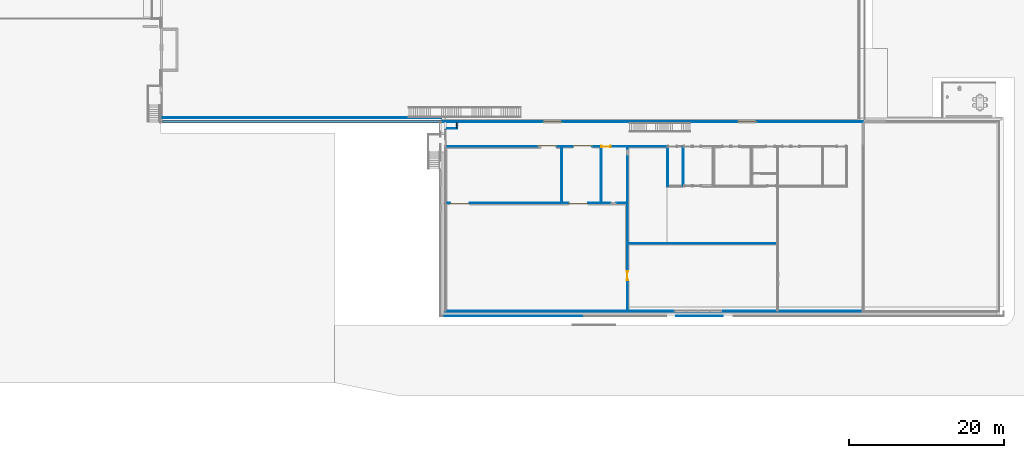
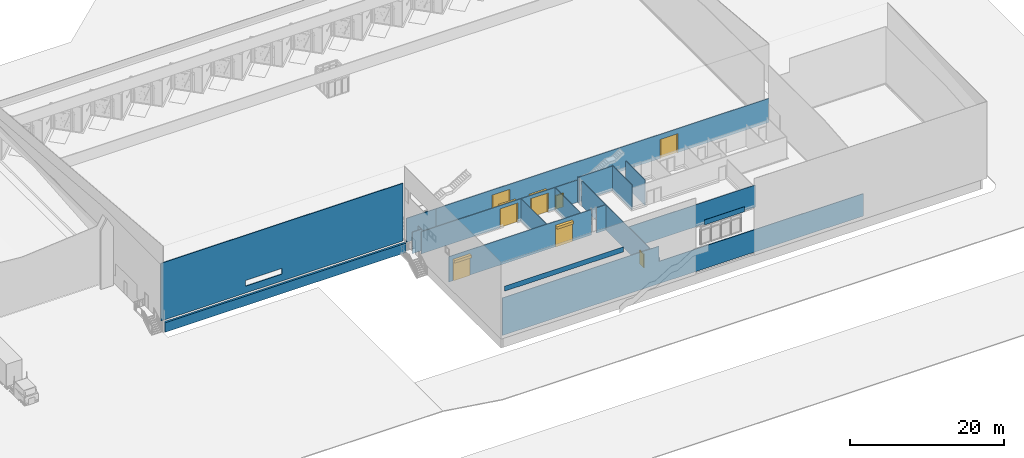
# One storey, part 23 of 64: 17 walls, 8 doors, 14 openings.
"""IFC2X3 building model written with IfcOpenShell, lengths in millimetres."""

from ifc_helpers import new_model, entity, si_unit, converted_unit, derived_unit, direction, frame, frame_2d, origin, origin_2d_with_axis, place, context, subcontext, project, spatial, polyline, rectangle, outline, extrude, clip, halfspace, source, transform, mapped, material, material_list, layer, layer_set, layer_usage, type_object, type_shapes, element, fill, save


model = new_model("IFC2X3")

# Units and contexts
model_context = context("Model", 3, precision=0.01, world=origin(), true_north=direction((4.05803320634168e-15, -1.0)))
body_context = subcontext(model_context, "Body", "Model", "MODEL_VIEW")
ifc_project = project(units=[si_unit("LENGTHUNIT", "METRE", prefix="MILLI"), si_unit("AREAUNIT", "SQUARE_METRE"), si_unit("VOLUMEUNIT", "CUBIC_METRE"), converted_unit("PLANEANGLEUNIT", "DEGREE", entity("IfcRatioMeasure", 0.0174532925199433), si_unit("PLANEANGLEUNIT", "RADIAN"), dimensions=[0, 0, 0, 0, 0, 0, 0]), si_unit("MASSUNIT", "GRAM", prefix="KILO"), derived_unit("MASSDENSITYUNIT", [(si_unit("MASSUNIT", "GRAM", prefix="KILO"), 1), (si_unit("LENGTHUNIT", "METRE"), -3)]), si_unit("TIMEUNIT", "SECOND"), si_unit("FREQUENCYUNIT", "HERTZ"), si_unit("THERMODYNAMICTEMPERATUREUNIT", "DEGREE_CELSIUS"), derived_unit("THERMALTRANSMITTANCEUNIT", [(si_unit("MASSUNIT", "GRAM", prefix="KILO"), 1), (si_unit("THERMODYNAMICTEMPERATUREUNIT", "KELVIN"), -1), (si_unit("TIMEUNIT", "SECOND"), -3)]), derived_unit("VOLUMETRICFLOWRATEUNIT", [(si_unit("LENGTHUNIT", "METRE"), 3), (si_unit("TIMEUNIT", "SECOND"), -1)]), si_unit("ELECTRICCURRENTUNIT", "AMPERE"), si_unit("ELECTRICVOLTAGEUNIT", "VOLT"), si_unit("POWERUNIT", "WATT"), si_unit("FORCEUNIT", "NEWTON", prefix="KILO"), si_unit("ILLUMINANCEUNIT", "LUX"), si_unit("LUMINOUSFLUXUNIT", "LUMEN"), si_unit("LUMINOUSINTENSITYUNIT", "CANDELA"), derived_unit("USERDEFINED", [(si_unit("MASSUNIT", "GRAM", prefix="KILO"), -1), (si_unit("LENGTHUNIT", "METRE"), -2), (si_unit("TIMEUNIT", "SECOND"), 3), (si_unit("LUMINOUSFLUXUNIT", "LUMEN"), 1)]), derived_unit("LINEARVELOCITYUNIT", [(si_unit("LENGTHUNIT", "METRE"), 1), (si_unit("TIMEUNIT", "SECOND"), -1)]), si_unit("PRESSUREUNIT", "PASCAL"), derived_unit("USERDEFINED", [(si_unit("LENGTHUNIT", "METRE"), -2), (si_unit("MASSUNIT", "GRAM", prefix="KILO"), 1), (si_unit("TIMEUNIT", "SECOND"), -2)])], contexts=[model_context])

# Site, building, storey
site_placement = place(None, frame((927466.849349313, 583801.882853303, 0.0), z_axis=(0.0, 0.0, 1.0), x_axis=(-1.0, 0.0, 0.0)))
site = spatial("IfcSite", under=ifc_project, at=site_placement, Name="Surface", CompositionType="ELEMENT")
building_placement = place(site_placement, origin())
building = spatial("IfcBuilding", under=site, at=building_placement, CompositionType="ELEMENT")
storey_placement = place(building_placement, frame((0.0, 0.0, 44170.0)))
storey = spatial("IfcBuildingStorey", under=building, at=storey_placement, Name="Ground FFL", CompositionType="ELEMENT", Elevation=44170.0)

# Walls
ifc_material_1 = material(Name="Isopenal")
ifc_layer_1 = layer(ifc_material_1, 100.0)
ifc_layer_set_1 = layer_set([ifc_layer_1], Name="Basic Wall:Isopanel")
ifc_layer_usage_1 = layer_usage(ifc_layer_set_1, "AXIS2", "NEGATIVE", 50.0)
wall_type_1 = type_object("IfcWallType", Name="Basic Wall:Isopanel", PredefinedType="STANDARD", material=ifc_layer_set_1)
wall_1_placement = place(storey_placement, frame((-96397.9372768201, 15207.4703266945, 0.0), z_axis=(0.0, 0.0, 1.0), x_axis=(0.0, 1.0, 0.0)))
element("IfcWallStandardCase", 1, at=wall_1_placement, inside=storey, type_object=wall_type_1, material=ifc_layer_usage_1, Name="Basic Wall:Isopanel", ObjectType="Basic Wall:Isopanel", context=body_context, shape_type="SweptSolid", body=[
    extrude(rectangle(XDim=7200.00000000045, YDim=100.000000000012, at=frame_2d((3600.00000000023, 2.98427949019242e-12), x_axis=(-1.0, 0.0))), origin(), (0.0, 0.0, 1.0), 3499.99999999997),
])
ifc_layer_usage_2 = layer_usage(ifc_layer_set_1, "AXIS2", "NEGATIVE", 50.0)
wall_2_placement = place(storey_placement, frame((-101497.937276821, 15207.4703266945, 0.0), z_axis=(0.0, 0.0, 1.0), x_axis=(0.0, 1.0, 0.0)))
element("IfcWallStandardCase", 2, at=wall_2_placement, inside=storey, type_object=wall_type_1, material=ifc_layer_usage_2, Name="Basic Wall:Isopanel", ObjectType="Basic Wall:Isopanel", context=body_context, shape_type="SweptSolid", body=[
    extrude(rectangle(XDim=7200.00000000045, YDim=100.000000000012, at=frame_2d((3600.00000000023, 3.04112290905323e-12), x_axis=(-1.0, 0.0))), origin(), (0.0, 0.0, 1.0), 3500.0),
])

# Wall, openings, doors
ifc_layer_usage_3 = layer_usage(ifc_layer_set_1, "AXIS2", "NEGATIVE", 50.0)
wall_3_placement = place(storey_placement, frame((-81347.9372768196, 22457.4703266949, 0.0), z_axis=(0.0, 0.0, 1.0), x_axis=(-1.0, 0.0, 0.0)))
wall_3 = element("IfcWallStandardCase", 3, at=wall_3_placement, inside=storey, type_object=wall_type_1, material=ifc_layer_usage_3, Name="Basic Wall:Isopanel", ObjectType="Basic Wall:Isopanel", context=body_context, shape_type="SweptSolid", body=[
    extrude(rectangle(XDim=23500.0000000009, YDim=100.000000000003, at=frame_2d((11750.0000000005, 6.85673740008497e-13), x_axis=(-1.0, 0.0))), origin(), (0.0, 0.0, 1.0), 3999.99999999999),
])
opening_1_placement = place(wall_3_placement, origin())
element("IfcOpeningElement", 4, at=opening_1_placement, cuts=wall_3, Name="Basic Wall:Isopanel", ObjectType="Opening", context=body_context, shape_type="SweptSolid", body=[
    extrude(rectangle(XDim=4000.0, YDim=700.000000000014, at=frame_2d((0.0, -4.32009983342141e-12), x_axis=(0.0, 1.0))), frame((21730.0, -202.399999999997, 2000.0), z_axis=(0.0, 1.0, 0.0), x_axis=(-1.0, 0.0, 0.0)), (0.0, 0.0, 1.0), 404.799999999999),
])
opening_2_placement = place(wall_3_placement, frame((660.0, -50.0, 0.0)))
opening_2 = element("IfcOpeningElement", 5, at=opening_2_placement, cuts=wall_3, Name="Rollershutter:25000(w) x 3000(h):1", ObjectType="Opening", context=body_context, shape_type="SweptSolid", body=[
    extrude(rectangle(XDim=3000.0, YDim=2500.0, at=frame_2d((1500.0, 1250.0), x_axis=(1.0, 0.0))), frame((0.0, 0.0, 0.0), z_axis=(0.0, 1.0, 0.0), x_axis=(0.0, 0.0, 1.0)), (0.0, 0.0, 1.0), 100.0),
])
opening_3_placement = place(wall_3_placement, frame((15960.0, -50.0, 0.0)))
opening_3 = element("IfcOpeningElement", 6, at=opening_3_placement, cuts=wall_3, Name="Rollershutter:25000(w) x 3000(h):1", ObjectType="Opening", context=body_context, shape_type="SweptSolid", body=[
    extrude(rectangle(XDim=3000.0, YDim=2500.0, at=frame_2d((1500.0, 1250.0), x_axis=(1.0, 0.0))), frame((0.0, 0.0, 0.0), z_axis=(0.0, 1.0, 0.0), x_axis=(0.0, 0.0, 1.0)), (0.0, 0.0, 1.0), 100.0),
])
ifc_material_2 = material(Name="Metal - Paint Finish - Ivory, Matte")
ifc_material_3 = material(Name="Metal - Galvanised")
ifc_material_list_1 = material_list([ifc_material_2, ifc_material_3])
ifc_material_list_2 = material_list([ifc_material_2, ifc_material_3])
door_style_1 = type_object("IfcDoorStyle", Name="25000(w) x 3000(h)", ConstructionType="NOTDEFINED", OperationType="NOTDEFINED", ParameterTakesPrecedence=False, Sizeable=False, material=ifc_material_list_2)
shared_shape_1 = source(origin(), body_context, "Body", "SweptSolid", [
    extrude(outline(polyline([(-50.6000000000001, -73.3333333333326), (-20.5999999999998, -73.3333333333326), (-20.5999999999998, 21.6666666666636), (71.1999999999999, 21.6666666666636), (71.1999999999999, 51.6666666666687), (-50.6000000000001, 51.6666666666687), (-50.6000000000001, -73.3333333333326)])), frame((-21.6666666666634, 79.3999999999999, 0.0), z_axis=(0.0, 0.0, 1.0), x_axis=(0.0, -1.0, 0.0)), (0.0, 0.0, 1.0), 3000.0),
    extrude(rectangle(XDim=2500.0, YDim=51.0, at=frame_2d((0.0, -3.5527136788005e-15), x_axis=(1.0, 0.0))), frame((1250.0, -25.5, 0.0), z_axis=(0.0, 0.0, 1.0), x_axis=(-1.0, 0.0, 0.0)), (0.0, 0.0, 1.0), 3000.0),
    extrude(outline(polyline([(-73.3333333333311, -50.5999999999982), (51.6666666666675, -50.5999999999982), (51.6666666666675, 71.1999999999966), (21.6666666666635, 71.1999999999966), (21.6666666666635, -20.5999999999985), (-73.3333333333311, -20.5999999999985), (-73.3333333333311, -50.5999999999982)])), frame((2521.66666666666, 79.3999999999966, 0.0), z_axis=(0.0, 0.0, 1.0), x_axis=(-1.0, 0.0, 0.0)), (0.0, 0.0, 1.0), 3000.0),
    extrude(rectangle(XDim=2500.0, YDim=400.0, at=frame_2d((2.27373675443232e-13, 0.0), x_axis=(1.0, 0.0))), frame((1250.0, -200.0, 3000.0)), (0.0, 0.0, 1.0), 400.0),
])
type_shapes(door_style_1, [shared_shape_1])
door_1_placement = place(opening_2_placement, origin())
door_1 = element("IfcDoor", 7, at=door_1_placement, inside=storey, type_object=door_style_1, material=ifc_material_list_1, Name="Rollershutter:25000(w) x 3000(h)", ObjectType="25000(w) x 3000(h)", OverallHeight=3000.0, OverallWidth=2500.0, context=body_context, shape_type="MappedRepresentation", body=[
    mapped(shared_shape_1, transform((0.0, 0.0, 0.0), scale=1.0)),
])
fill(opening_2, door_1)
ifc_material_list_3 = material_list([ifc_material_2, ifc_material_3])
door_2_placement = place(opening_3_placement, origin())
door_2 = element("IfcDoor", 8, at=door_2_placement, inside=storey, type_object=door_style_1, material=ifc_material_list_3, Name="Rollershutter:25000(w) x 3000(h)", ObjectType="25000(w) x 3000(h)", OverallHeight=3000.0, OverallWidth=2500.0, context=body_context, shape_type="MappedRepresentation", body=[
    mapped(shared_shape_1, transform((0.0, 0.0, 0.0), scale=1.0)),
])
fill(opening_3, door_2)

# Wall, openings, door
ifc_layer_usage_4 = layer_usage(ifc_layer_set_1, "AXIS2", "POSITIVE", -50.0)
wall_4_placement = place(storey_placement, frame((-104897.937276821, 15107.4703266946, 0.0), z_axis=(0.0, 0.0, 1.0), x_axis=(0.0, 1.0, 0.0)))
wall_4 = element("IfcWallStandardCase", 9, at=wall_4_placement, inside=storey, type_object=wall_type_1, material=ifc_layer_usage_4, Name="Basic Wall:Isopanel", ObjectType="Basic Wall:Isopanel", context=body_context, shape_type="SweptSolid", body=[
    extrude(rectangle(XDim=21248.4995753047, YDim=100.000000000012, at=frame_2d((10624.2497876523, -6.96331881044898e-13), x_axis=(-1.0, 0.0))), origin(), (0.0, 0.0, 1.0), 3999.99999999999),
])
opening_4_placement = place(wall_4_placement, origin())
element("IfcOpeningElement", 10, at=opening_4_placement, cuts=wall_4, Name="Basic Wall:Isopanel", ObjectType="Opening", context=body_context, shape_type="SweptSolid", body=[
    extrude(rectangle(XDim=4000.0, YDim=700.000000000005, at=frame_2d((-4.32009983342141e-12, 0.0), x_axis=(1.0, 0.0))), frame((810.0, -202.399999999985, 2000.0), z_axis=(0.0, 1.0, 0.0), x_axis=(0.0, 0.0, 1.0)), (0.0, 0.0, 1.0), 404.799999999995),
])
opening_5_placement = place(wall_4_placement, frame((17243.4448535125, 50.0, 0.0)))
opening_5 = element("IfcOpeningElement", 11, at=opening_5_placement, cuts=wall_4, Name="M_Single-Flush:1050 x 2134mm:1", ObjectType="Opening", context=body_context, shape_type="SweptSolid", body=[
    extrude(rectangle(XDim=1050.0, YDim=2134.0, at=frame_2d((1067.0, 525.0), x_axis=(0.0, 1.0))), frame((0.0, 0.0, 0.0), z_axis=(0.0, -1.0, 0.0), x_axis=(0.0, 0.0, 1.0)), (0.0, 0.0, 1.0), 100.0),
])
ifc_material_4 = material(Name="Door - Frame")
ifc_material_5 = material(Name="Door - Panel")
ifc_material_list_4 = material_list([ifc_material_4, ifc_material_5])
ifc_material_list_5 = material_list([ifc_material_4, ifc_material_5])
door_style_2 = type_object("IfcDoorStyle", Name="1050 x 2134mm", ConstructionType="NOTDEFINED", OperationType="SINGLE_SWING_RIGHT", ParameterTakesPrecedence=False, Sizeable=False, material=ifc_material_list_5)
shared_shape_2 = source(origin(), body_context, "Body", "SweptSolid", [
    extrude(outline(polyline([(-601.0, -1124.0), (601.0, -1124.0), (601.0, 1086.0), (525.0, 1086.0), (525.0, -1048.0), (-525.0, -1048.0), (-525.0, 1086.0), (-601.0, 1086.0), (-601.0, -1124.0)])), frame((525.0, 100.0, 1086.0), z_axis=(0.0, 1.0, 0.0), x_axis=(1.0, 0.0, 0.0)), (0.0, 0.0, 1.0), 24.9999999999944),
    extrude(outline(polyline([(-1124.0, -601.0), (1086.0, -601.0), (1086.0, -525.0), (-1048.0, -525.0), (-1048.0, 525.0), (1086.0, 525.0), (1086.0, 601.0), (-1124.0, 601.0), (-1124.0, -601.0)])), frame((525.0, -25.0, 1086.0), z_axis=(0.0, 1.0, 0.0), x_axis=(0.0, 0.0, -1.0)), (0.0, 0.0, 1.0), 25.0000000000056),
    extrude(rectangle(XDim=51.0, YDim=1050.0, at=origin_2d_with_axis()), frame((525.0, 74.500000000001, 0.0), z_axis=(0.0, 0.0, 1.0), x_axis=(0.0, 1.0, 0.0)), (0.0, 0.0, 1.0), 2134.0),
])
type_shapes(door_style_2, [shared_shape_2])
door_3_placement = place(opening_5_placement, frame((0.0, 0.0, 0.0), z_axis=(0.0, 0.0, 1.0), x_axis=(-1.0, 0.0, 0.0)))
door_3 = element("IfcDoor", 12, at=door_3_placement, inside=storey, type_object=door_style_2, material=ifc_material_list_4, Name="M_Single-Flush:1050 x 2134mm", ObjectType="1050 x 2134mm", OverallHeight=2134.0, OverallWidth=1050.0, context=body_context, shape_type="MappedRepresentation", body=[
    mapped(shared_shape_2, transform((0.0, 0.0, 0.0), scale=1.0)),
])
fill(opening_5, door_3)

# Wall, openings, doors
ifc_layer_usage_5 = layer_usage(ifc_layer_set_1, "AXIS2", "POSITIVE", -50.0)
wall_5_placement = place(storey_placement, frame((-135347.93727682, 11958.2777512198, 0.0)))
wall_5 = element("IfcWallStandardCase", 13, at=wall_5_placement, inside=storey, type_object=wall_type_1, material=ifc_layer_usage_5, Name="Basic Wall:Isopanel", ObjectType="Basic Wall:Isopanel", context=body_context, shape_type="SweptSolid", body=[
    extrude(rectangle(XDim=49822.0595884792, YDim=99.9999999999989, at=frame_2d((24911.0297942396, 1.77635683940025e-13), x_axis=(-1.0, 0.0))), origin(), (0.0, 0.0, 1.0), 3800.0),
])
opening_6_placement = place(wall_5_placement, origin())
element("IfcOpeningElement", 14, at=opening_6_placement, cuts=wall_5, Name="Basic Wall:Isopanel", ObjectType="Opening", context=body_context, shape_type="SweptSolid", body=[
    extrude(rectangle(XDim=3000.0, YDim=99.9999999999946, at=frame_2d((8.66506866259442e-12, 4.32009983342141e-12), x_axis=(0.0, 1.0))), frame((50.0, 50.0, 1500.0), z_axis=(0.0, 1.0, 0.0), x_axis=(1.0, 0.0, 0.0)), (0.0, 0.0, 1.0), 3000.0),
])
opening_7_placement = place(wall_5_placement, frame((13752.0595884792, -50.0, 0.0)))
opening_7 = element("IfcOpeningElement", 15, at=opening_7_placement, cuts=wall_5, Name="Rollershutter:25000(w) x 3000(h):1", ObjectType="Opening", context=body_context, shape_type="SweptSolid", body=[
    extrude(rectangle(XDim=3000.0, YDim=2500.0, at=frame_2d((1500.0, 1250.0), x_axis=(1.0, 0.0))), frame((0.0, 0.0, 0.0), z_axis=(0.0, 1.0, 0.0), x_axis=(0.0, 0.0, 1.0)), (0.0, 0.0, 1.0), 100.0),
])
opening_8_placement = place(wall_5_placement, frame((38872.0595884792, -50.0, 0.0)))
opening_8 = element("IfcOpeningElement", 16, at=opening_8_placement, cuts=wall_5, Name="Rollershutter:25000(w) x 3000(h):1", ObjectType="Opening", context=body_context, shape_type="SweptSolid", body=[
    extrude(rectangle(XDim=3000.0, YDim=2500.0, at=frame_2d((1500.0, 1250.0), x_axis=(1.0, 0.0))), frame((0.0, 0.0, 0.0), z_axis=(0.0, 1.0, 0.0), x_axis=(0.0, 0.0, 1.0)), (0.0, 0.0, 1.0), 100.0),
])
ifc_material_list_6 = material_list([ifc_material_2, ifc_material_3])
ifc_material_list_7 = material_list([ifc_material_2, ifc_material_3])
door_style_3 = type_object("IfcDoorStyle", Name="25000(w) x 3000(h)", ConstructionType="NOTDEFINED", OperationType="NOTDEFINED", ParameterTakesPrecedence=False, Sizeable=False, material=ifc_material_list_7)
shared_shape_3 = source(origin(), body_context, "Body", "SweptSolid", [
    extrude(outline(polyline([(-73.3333333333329, -50.6000000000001), (51.6666666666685, -50.6000000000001), (51.6666666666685, 71.1999999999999), (21.6666666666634, 71.1999999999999), (21.6666666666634, -20.5999999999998), (-73.3333333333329, -20.5999999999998), (-73.3333333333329, -50.6000000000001)])), frame((3321.66666666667, 79.3999999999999, 0.0), z_axis=(0.0, 0.0, 1.0), x_axis=(-1.0, 0.0, 0.0)), (0.0, 0.0, 1.0), 3000.0),
    extrude(rectangle(XDim=51.0, YDim=2500.0, at=frame_2d((-3.5527136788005e-15, 0.0), x_axis=(1.0, 0.0))), frame((2050.0, -25.5, 0.0), z_axis=(0.0, 0.0, 1.0), x_axis=(0.0, -1.0, 0.0)), (0.0, 0.0, 1.0), 3000.0),
    extrude(outline(polyline([(-50.5999999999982, -73.3333333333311), (-20.5999999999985, -73.3333333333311), (-20.5999999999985, 21.6666666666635), (71.1999999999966, 21.6666666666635), (71.1999999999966, 51.6666666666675), (-50.5999999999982, 51.6666666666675), (-50.5999999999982, -73.3333333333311)])), frame((778.333333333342, 79.3999999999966, 0.0), z_axis=(0.0, 0.0, 1.0), x_axis=(0.0, -1.0, 0.0)), (0.0, 0.0, 1.0), 3000.0),
    extrude(rectangle(XDim=400.0, YDim=2500.0, at=origin_2d_with_axis()), frame((2050.0, -200.0, 3000.0), z_axis=(0.0, 0.0, 1.0), x_axis=(0.0, 1.0, 0.0)), (0.0, 0.0, 1.0), 400.0),
])
type_shapes(door_style_3, [shared_shape_3])
door_4_placement = place(opening_7_placement, frame((-800.0, 0.0, 0.0)))
door_4 = element("IfcDoor", 17, at=door_4_placement, inside=storey, type_object=door_style_3, material=ifc_material_list_6, Name="Rollershutter:25000(w) x 3000(h)", ObjectType="25000(w) x 3000(h)", OverallHeight=3000.0, OverallWidth=2500.0, context=body_context, shape_type="MappedRepresentation", body=[
    mapped(shared_shape_3, transform((0.0, 0.0, 0.0), scale=1.0)),
])
fill(opening_7, door_4)
ifc_material_list_8 = material_list([ifc_material_2, ifc_material_3])
door_5_placement = place(opening_8_placement, frame((-800.0, 0.0, 0.0)))
door_5 = element("IfcDoor", 18, at=door_5_placement, inside=storey, type_object=door_style_3, material=ifc_material_list_8, Name="Rollershutter:25000(w) x 3000(h)", ObjectType="25000(w) x 3000(h)", OverallHeight=3000.0, OverallWidth=2500.0, context=body_context, shape_type="MappedRepresentation", body=[
    mapped(shared_shape_3, transform((0.0, 0.0, 0.0), scale=1.0)),
])
fill(opening_8, door_5)

ifc_layer_usage_6 = layer_usage(ifc_layer_set_1, "AXIS2", "NEGATIVE", 50.0)
wall_6_placement = place(storey_placement, frame((-81447.9372768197, 15157.4703266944, 0.0), z_axis=(0.0, 0.0, 1.0), x_axis=(-1.0, 0.0, 0.0)))
wall_6 = element("IfcWallStandardCase", 19, at=wall_6_placement, inside=storey, type_object=wall_type_1, material=ifc_layer_usage_6, Name="Basic Wall:Isopanel", ObjectType="Basic Wall:Isopanel", context=body_context, shape_type="SweptSolid", body=[
    extrude(rectangle(XDim=23400.0000000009, YDim=99.9999999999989, at=frame_2d((11700.0000000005, -7.21200876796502e-13), x_axis=(-1.0, 0.0))), origin(), (0.0, 0.0, 1.0), 3500.0),
])
opening_9_placement = place(wall_6_placement, frame((14340.0, 50.0, 0.0)))
opening_9 = element("IfcOpeningElement", 20, at=opening_9_placement, cuts=wall_6, Name="Rollershutter:25000(w) x 3000(h):1", ObjectType="Opening", context=body_context, shape_type="SweptSolid", body=[
    extrude(rectangle(XDim=3000.0, YDim=2500.0, at=frame_2d((1500.0, 1250.0), x_axis=(1.0, 0.0))), frame((0.0, 0.0, 0.0), z_axis=(0.0, -1.0, 0.0), x_axis=(0.0, 0.0, 1.0)), (0.0, 0.0, 1.0), 100.0),
])
opening_10_placement = place(wall_6_placement, frame((21200.0, 50.0, 0.0)))
opening_10 = element("IfcOpeningElement", 21, at=opening_10_placement, cuts=wall_6, Name="M_Single-Flush:1050 x 2134mm:1", ObjectType="Opening", context=body_context, shape_type="SweptSolid", body=[
    extrude(rectangle(XDim=1050.0, YDim=2134.0, at=frame_2d((1067.0, 525.000000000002), x_axis=(0.0, 1.0))), frame((0.0, 0.0, 0.0), z_axis=(0.0, -1.0, 0.0), x_axis=(0.0, 0.0, 1.0)), (0.0, 0.0, 1.0), 100.0),
])
opening_11_placement = place(wall_6_placement, frame((18930.0, 50.0, 0.0)))
opening_11 = element("IfcOpeningElement", 22, at=opening_11_placement, cuts=wall_6, Name="Rollershutter:25000(w) x 3000(h):1", ObjectType="Opening", context=body_context, shape_type="SweptSolid", body=[
    extrude(rectangle(XDim=3000.0, YDim=2500.0, at=frame_2d((1500.0, 1250.0), x_axis=(1.0, 0.0))), frame((0.0, 0.0, 0.0), z_axis=(0.0, -1.0, 0.0), x_axis=(0.0, 0.0, 1.0)), (0.0, 0.0, 1.0), 100.0),
])
ifc_material_list_9 = material_list([ifc_material_2, ifc_material_3])
door_6_placement = place(opening_9_placement, frame((800.0, 0.0, 0.0), z_axis=(0.0, 0.0, 1.0), x_axis=(-1.0, 0.0, 0.0)))
door_6 = element("IfcDoor", 23, at=door_6_placement, inside=storey, type_object=door_style_3, material=ifc_material_list_9, Name="Rollershutter:25000(w) x 3000(h)", ObjectType="25000(w) x 3000(h)", OverallHeight=3000.0, OverallWidth=2500.0, context=body_context, shape_type="MappedRepresentation", body=[
    mapped(shared_shape_3, transform((0.0, 0.0, 0.0), scale=1.0)),
])
fill(opening_9, door_6)
ifc_material_list_10 = material_list([ifc_material_4, ifc_material_5])
door_7_placement = place(opening_10_placement, frame((0.0, 0.0, 0.0), z_axis=(0.0, 0.0, 1.0), x_axis=(-1.0, 0.0, 0.0)))
door_7 = element("IfcDoor", 24, at=door_7_placement, inside=storey, type_object=door_style_2, material=ifc_material_list_10, Name="M_Single-Flush:1050 x 2134mm", ObjectType="1050 x 2134mm", OverallHeight=2134.0, OverallWidth=1050.0, context=body_context, shape_type="MappedRepresentation", body=[
    mapped(shared_shape_2, transform((0.0, 0.0, 0.0), scale=1.0)),
])
fill(opening_10, door_7)
ifc_material_list_11 = material_list([ifc_material_2, ifc_material_3])
door_8_placement = place(opening_11_placement, frame((0.0, 0.0, 0.0), z_axis=(0.0, 0.0, 1.0), x_axis=(-1.0, 0.0, 0.0)))
door_8 = element("IfcDoor", 25, at=door_8_placement, inside=storey, type_object=door_style_1, material=ifc_material_list_11, Name="Rollershutter:25000(w) x 3000(h)", ObjectType="25000(w) x 3000(h)", OverallHeight=3000.0, OverallWidth=2500.0, context=body_context, shape_type="MappedRepresentation", body=[
    mapped(shared_shape_1, transform((0.0, 0.0, 0.0), scale=1.0)),
])
fill(opening_11, door_8)

# Wall, opening
ifc_layer_usage_7 = layer_usage(ifc_layer_set_1, "AXIS2", "POSITIVE", -50.0)
wall_7_placement = place(storey_placement, frame((-80889.0423298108, 11438.2777512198, 0.0)))
wall_7 = element("IfcWallStandardCase", 26, at=wall_7_placement, inside=storey, type_object=wall_type_1, material=ifc_layer_usage_7, Name="Basic Wall:Isopanel", ObjectType="Basic Wall:Isopanel", context=body_context, shape_type="SweptSolid", body=[
    extrude(rectangle(XDim=36252.0, YDim=99.9999999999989, at=frame_2d((18126.0, -8.34887714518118e-13), x_axis=(-1.0, 0.0))), origin(), (0.0, 0.0, 1.0), 9140.0),
])
opening_12_placement = place(wall_7_placement, origin())
element("IfcOpeningElement", 27, at=opening_12_placement, cuts=wall_7, Name="Basic Wall:Isopanel", ObjectType="Opening", context=body_context, shape_type="SweptSolid", body=[
    extrude(rectangle(XDim=899.999999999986, YDim=5420.00000000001, at=frame_2d((0.0, 4.32009983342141e-12), x_axis=(1.0, 0.0))), frame((20858.4505499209, 50.0, 1550.0), z_axis=(0.0, 1.0, 0.0), x_axis=(0.0, 0.0, -1.0)), (0.0, 0.0, -1.0), 100.0),
])

ifc_layer_usage_8 = layer_usage(ifc_layer_set_1, "AXIS2", "POSITIVE", -50.0)
wall_8_placement = place(storey_placement, frame((-110077.93727682, 20307.4925063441, 0.0), z_axis=(0.0, 0.0, 1.0), x_axis=(0.0, -1.0, 0.0)))
wall_8 = element("IfcWallStandardCase", 28, at=wall_8_placement, inside=storey, type_object=wall_type_1, material=ifc_layer_usage_8, Name="Basic Wall:Isopanel", ObjectType="Basic Wall:Isopanel", context=body_context, shape_type="SweptSolid", body=[
    extrude(rectangle(XDim=5200.02217964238, YDim=100.000000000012, at=frame_2d((2600.01108982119, -2.02504679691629e-13), x_axis=(-1.0, 0.0))), origin(), (0.0, 0.0, 1.0), 3999.99999999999),
])
opening_13_placement = place(wall_8_placement, origin())
element("IfcOpeningElement", 29, at=opening_13_placement, cuts=wall_8, Name="Basic Wall:Isopanel", ObjectType="Opening", context=body_context, shape_type="SweptSolid", body=[
    extrude(rectangle(XDim=2134.0, YDim=100.000000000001, at=frame_2d((-1.08357767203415e-12, 0.0), x_axis=(0.0, 1.0))), frame((5150.02217964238, -1152.49999999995, 1067.0), z_axis=(0.0, 1.0, 0.0), x_axis=(-1.0, 0.0, 0.0)), (0.0, 0.0, 1.0), 1050.0),
])

# Walls
ifc_layer_usage_9 = layer_usage(ifc_layer_set_1, "AXIS2", "NEGATIVE", 50.0)
wall_9_placement = place(storey_placement, frame((-104947.937276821, 15157.4703266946, 0.0), z_axis=(0.0, 0.0, 1.0), x_axis=(-1.0, 0.0, 0.0)))
element("IfcWallStandardCase", 30, at=wall_9_placement, inside=storey, type_object=wall_type_1, material=ifc_layer_usage_9, Name="Basic Wall:Isopanel", ObjectType="Basic Wall:Isopanel", context=body_context, shape_type="SweptSolid", body=[
    extrude(rectangle(XDim=5079.99999999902, YDim=99.9999999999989, at=frame_2d((2539.99999999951, 2.91322521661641e-13), x_axis=(-1.0, 0.0))), origin(), (0.0, 0.0, 1.0), 3871.665691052),
])
ifc_layer_usage_10 = layer_usage(ifc_layer_set_1, "AXIS2", "NEGATIVE", 50.0)
wall_10_placement = place(storey_placement, frame((-82917.3577908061, 12819.2777512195, -1404.68484145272)))
element("IfcWallStandardCase", 31, at=wall_10_placement, inside=storey, type_object=wall_type_1, material=ifc_layer_usage_10, Name="Basic Wall:Isopanel", ObjectType="Basic Wall:Isopanel", context=body_context, shape_type="SweptSolid", body=[
    extrude(rectangle(XDim=1469.42051398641, YDim=99.9999999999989, at=frame_2d((734.710256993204, -6.71462885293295e-13), x_axis=(-1.0, 0.0))), origin(), (0.0, 0.0, 1.0), 3404.68484145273),
])
ifc_layer_usage_11 = layer_usage(ifc_layer_set_1, "AXIS2", "NEGATIVE", 50.0)
wall_11_placement = place(storey_placement, frame((-82867.3577908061, 12008.2777512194, -1510.0), z_axis=(0.0, 0.0, 1.0), x_axis=(0.0, 1.0, 0.0)))
element("IfcWallStandardCase", 32, at=wall_11_placement, inside=storey, type_object=wall_type_1, material=ifc_layer_usage_11, Name="Basic Wall:Isopanel", ObjectType="Basic Wall:Isopanel", context=body_context, shape_type="SweptSolid", body=[
    extrude(rectangle(XDim=761.000000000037, YDim=100.000000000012, at=frame_2d((380.500000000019, 0.0), x_axis=(-1.0, 0.0))), origin(), (0.0, 0.0, 1.0), 3510.0),
])
ifc_layer_usage_12 = layer_usage(ifc_layer_set_1, "AXIS2", "POSITIVE", -50.0)
wall_12_placement = place(storey_placement, frame((-85525.877688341, 11958.2777512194, 0.0)))
element("IfcWallStandardCase", 33, at=wall_12_placement, inside=storey, type_object=wall_type_1, material=ifc_layer_usage_12, Name="Basic Wall:Isopanel", ObjectType="Basic Wall:Isopanel", context=body_context, shape_type="SweptSolid", body=[
    extrude(rectangle(XDim=4425.28590845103, YDim=99.9999999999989, at=frame_2d((2212.64295422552, 7.8159700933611e-14), x_axis=(-1.0, 0.0))), origin(), (0.0, 0.0, 1.0), 3800.0),
])
ifc_layer_usage_13 = layer_usage(ifc_layer_set_1, "AXIS2", "NEGATIVE", 50.0)
wall_13_placement = place(storey_placement, frame((-104947.937276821, 27658.415180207, 0.0), z_axis=(0.0, 0.0, 1.0), x_axis=(-1.0, 0.0, 0.0)))
element("IfcWallStandardCase", 34, at=wall_13_placement, inside=storey, type_object=wall_type_1, material=ifc_layer_usage_13, Name="Basic Wall:Isopanel", ObjectType="Basic Wall:Isopanel", context=body_context, shape_type="SweptSolid", body=[
    extrude(rectangle(XDim=19300.0000000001, YDim=100.000000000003, at=frame_2d((9650.00000000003, 7.105427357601e-15), x_axis=(-1.0, 0.0))), origin(), (0.0, 0.0, 1.0), 3499.99999999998),
])

# Wall, opening
ifc_layer_usage_14 = layer_usage(ifc_layer_set_1, "AXIS2", "POSITIVE", -50.0)
wall_14_placement = place(storey_placement, frame((-135348.690247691, 36405.9699019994, 0.0)))
wall_14 = element("IfcWallStandardCase", 35, at=wall_14_placement, inside=storey, type_object=wall_type_1, material=ifc_layer_usage_14, Name="Basic Wall:Isopanel", ObjectType="Basic Wall:Isopanel", context=body_context, shape_type="Clipping", body=[
    clip(extrude(rectangle(XDim=54000.7529708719, YDim=100.000000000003, at=frame_2d((27000.3764854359, 1.31450406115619e-12), x_axis=(-1.0, 0.0))), origin(), (0.0, 0.0, 1.0), 5950.0), halfspace(frame((30596.8977733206, -50.0, 5950.0), z_axis=(0.0, 0.0, 1.0), x_axis=(0.0, 1.0, 0.0)), False)),
])
opening_14_placement = place(wall_14_placement, origin())
element("IfcOpeningElement", 36, at=opening_14_placement, cuts=wall_14, Name="Basic Wall:Isopanel", ObjectType="Opening", context=body_context, shape_type="SweptSolid", body=[
    extrude(rectangle(XDim=2400.0, YDim=30596.8977733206, at=frame_2d((8.18545231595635e-12, 4.32009983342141e-12), x_axis=(0.0, 1.0))), frame((15298.4488866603, 50.0, 4750.0), z_axis=(0.0, -1.0, 0.0), x_axis=(-1.0, 0.0, 0.0)), (0.0, 0.0, 1.0), 100.0),
])

# Walls
ifc_layer_usage_15 = layer_usage(ifc_layer_set_1, "AXIS2", "POSITIVE", -50.0)
wall_15_placement = place(storey_placement, frame((-112077.374766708, 20207.4925063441, 0.0), z_axis=(0.0, 0.0, 1.0), x_axis=(0.0, -1.0, 0.0)))
element("IfcWallStandardCase", 37, at=wall_15_placement, inside=storey, type_object=wall_type_1, material=ifc_layer_usage_15, Name="Basic Wall:Isopanel", ObjectType="Basic Wall:Isopanel", context=body_context, shape_type="SweptSolid", body=[
    extrude(rectangle(XDim=5000.02217964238, YDim=100.000000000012, at=frame_2d((2500.01108982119, -5.29354338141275e-13), x_axis=(-1.0, 0.0))), origin(), (0.0, 0.0, 1.0), 3999.99999999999),
])
ifc_material_6 = material(Name="conc bund")
ifc_layer_2 = layer(ifc_material_6, 300.0)
ifc_layer_set_2 = layer_set([ifc_layer_2], Name="Basic Wall:300 bund wall")
ifc_layer_usage_16 = layer_usage(ifc_layer_set_2, "AXIS2", "NEGATIVE", 150.0)
wall_type_2 = type_object("IfcWallType", Name="Basic Wall:300 bund wall", PredefinedType="STANDARD", material=ifc_layer_set_2)
wall_16_placement = place(storey_placement, frame((-44899.0423298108, 11936.2777512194, -1500.0), z_axis=(0.0, 0.0, 1.0), x_axis=(-1.0, 0.0, 0.0)))
element("IfcWallStandardCase", 38, at=wall_16_placement, inside=storey, type_object=wall_type_2, material=ifc_layer_usage_16, Name="Basic Wall:300 bund wall", ObjectType="Basic Wall:300 bund wall", context=body_context, shape_type="Clipping", body=[
    clip(extrude(rectangle(XDim=36051.5494500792, YDim=300.000000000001, at=frame_2d((18025.7747250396, 3.41060513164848e-13), x_axis=(-1.0, 0.0))), origin(), (0.0, 0.0, 1.0), 1500.00000000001), halfspace(frame((0.0, -150.0, 1500.0), z_axis=(0.0, 0.0, 1.0), x_axis=(0.0, 1.0, 0.0)), False)),
])
ifc_material_7 = material(Name="Translucent")
wall_type_3 = type_object("IfcWallType", Name="Basic Wall:Translucent sheeting", PredefinedType="NOTDEFINED")
wall_17_placement = place(storey_placement, frame((-81298.6902476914, 37046.0854127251, 7400.0), z_axis=(0.0, 0.0, 1.0), x_axis=(-1.0, 0.0, 0.0)))
element("IfcWall", 39, at=wall_17_placement, inside=storey, type_object=wall_type_3, material=ifc_material_7, Name="Basic Wall:Translucent sheeting", ObjectType="Basic Wall:Translucent sheeting", context=body_context, shape_type="SweptSolid", body=[
    extrude(rectangle(XDim=38.0, YDim=17788.1163949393, at=frame_2d((-2.16537898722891e-12, 9.09494701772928e-12), x_axis=(1.0, 0.0))), frame((8894.05819746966, 0.0, 0.0), z_axis=(0.0, 0.0, 1.0), x_axis=(0.0, 1.0, 0.0)), (0.0, 0.0, 1.0), 800.000000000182),
    extrude(rectangle(XDim=38.0, YDim=5978.56002327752, at=frame_2d((-5.9358871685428, -8.64019966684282e-12), x_axis=(1.0, 0.0))), frame((32892.4304566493, 5.9358871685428, 0.0), z_axis=(0.0, 0.0, 1.0), x_axis=(0.0, 1.0, 0.0)), (0.0, 0.0, 1.0), 799.99999999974),
])

save(model, "model.ifc")
